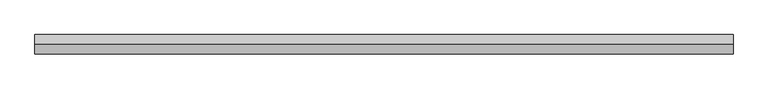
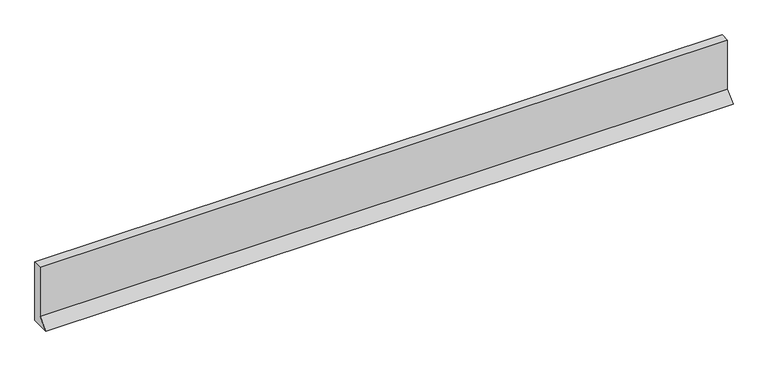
"""IFC4 building model written with IfcOpenShell, lengths in millimetres: plate geometry, ATELIERS 3S_EPURE CDB 200_HORIZONTAL : AZURO."""

from ifc_helpers import new_model, si_unit, frame, origin, place, context, project, spatial, polyline, outline, extrude, source, transform, mapped, element, save


def plate_122a612d(model_context):
    return source(origin(), model_context, "Body", "SweptSolid", [
        extrude(outline(polyline([(-30.0201339, 31.7071152), (-30.0201339, 200.0), (0.0, 200.0), (0.0, 0.0), (-61.727249, 0.0), (-30.0201339, 31.7071152)])), frame((-1116.75, 0.0, 0.0), z_axis=(1.0, 0.0, 0.0), x_axis=(0.0, 1.0, 0.0)), (0.0, 0.0, 1.0), 2233.5),
    ])


if __name__ == "__main__":
    model = new_model("IFC4")
    model_context = context("Model", 3, world=origin())
    ifc_project = project(units=[si_unit("LENGTHUNIT", "METRE", prefix="MILLI")], contexts=[model_context])
    site = spatial("IfcSite", under=ifc_project)
    building = spatial("IfcBuilding", under=site)
    placement = place(None, origin())
    plate_shape = plate_122a612d(model_context)
    element("IfcPlate", 1, ObjectType="ATELIERS 3S_EPURE CDB 200_HORIZONTAL : AZURO", at=placement, inside=building, context=model_context, shape_type="MappedRepresentation", body=[
        mapped(plate_shape, transform((0.0, 0.0, 0.0), x_axis=(1.0, 0.0, 0.0), y_axis=(0.0, 1.0, 0.0), z_axis=(0.0, 0.0, 1.0))),
    ])
    save(model, "model.ifc")
